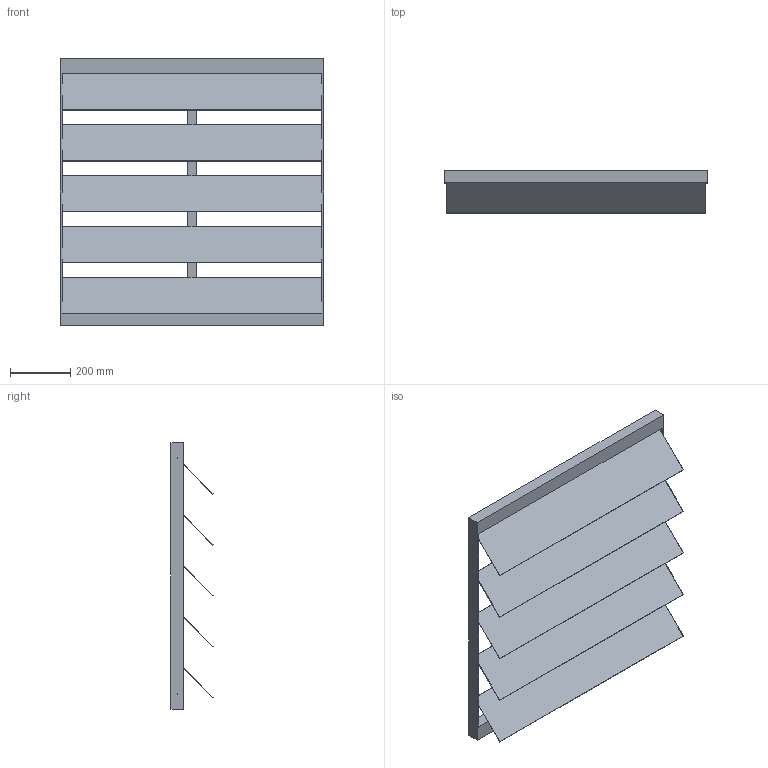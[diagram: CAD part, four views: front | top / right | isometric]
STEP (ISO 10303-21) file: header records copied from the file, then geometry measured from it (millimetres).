
FILE_DESCRIPTION(/* description */ (''),/* implementation_level */ '2;1');
FILE_NAME(/* name */ 'Z:\Output\VK_800-00839-001.stp',/* time_stamp */ '2017-09-29T10:20:36+02:00',/* author */ ('pareshmistry'),/* organization */ (''),/* preprocessor_version */ 'ST-DEVELOPER v16.5',/* originating_system */ 'Autodesk Inventor 2017',/* authorisation */ '');
FILE_SCHEMA (('AUTOMOTIVE_DESIGN { 1 0 10303 214 3 1 1 }'));
Length unit declared in the file: millimetre
Products named in the file (1): VK-1
Bounding box: 876 x 139.5 x 885 mm (x, y, z)
Volume: 5857571.9 mm3; surface area: 2023041.6 mm2
Topology: 1 solids, 1 shells, 76 faces, 249 edges, 150 vertices
Faces by surface type: plane 68, cylinder 8
Full cylindrical faces by diameter (mm): 8 x4
Entity records: 2701 total; most frequent: ORIENTED_EDGE 494, CARTESIAN_POINT 468, DIRECTION 425, EDGE_CURVE 243, LINE 215, VECTOR 215, VERTEX_POINT 148, AXIS2_PLACEMENT_3D 105
